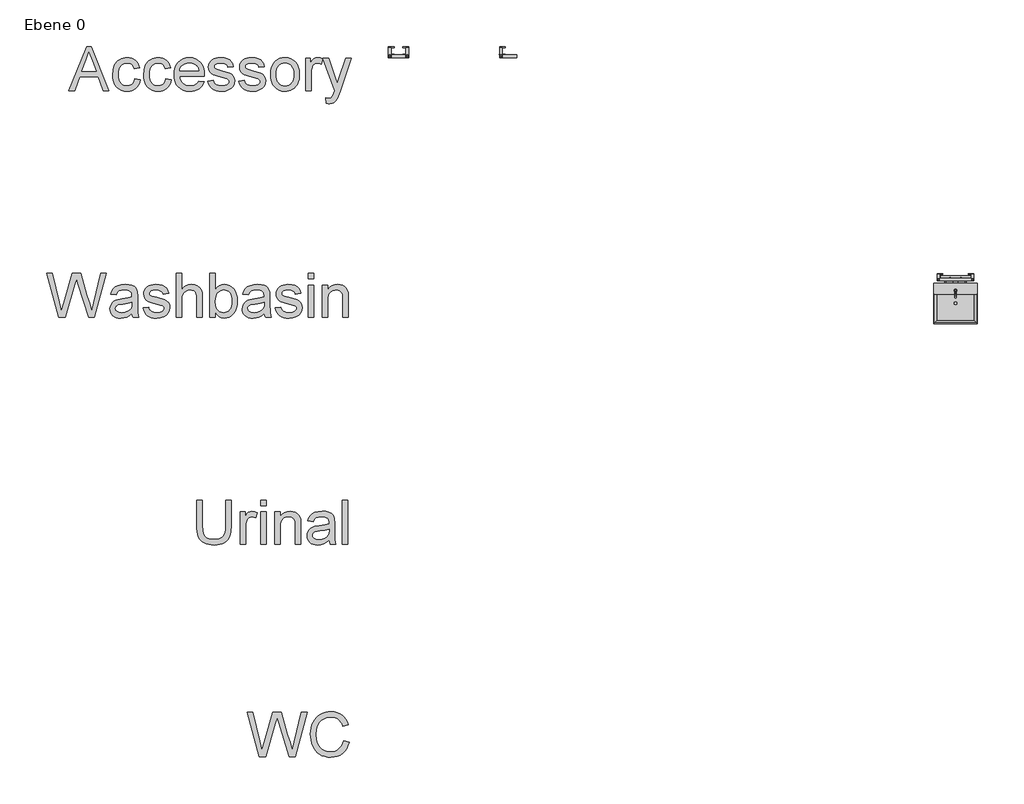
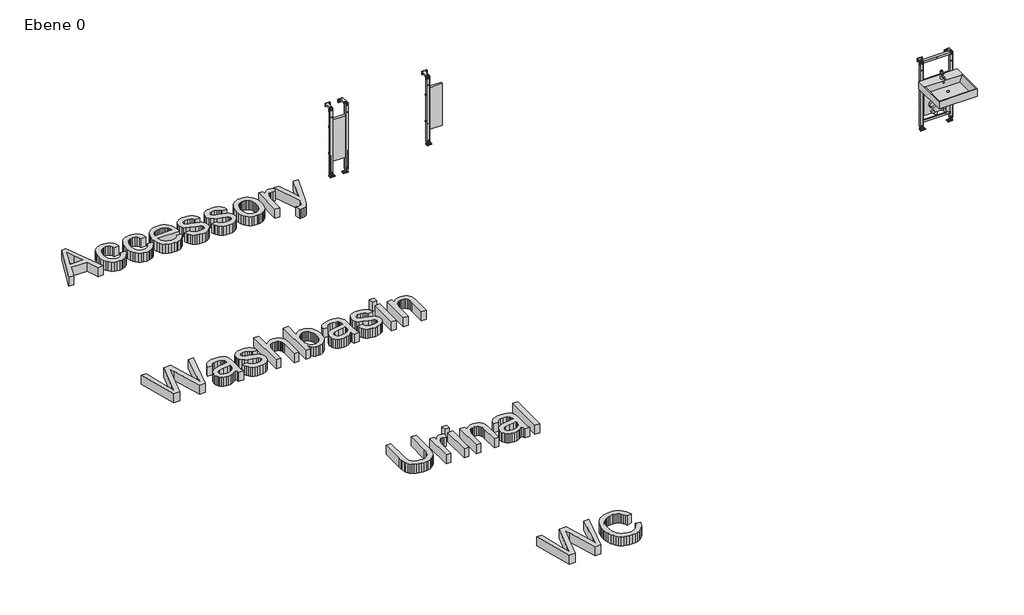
# One storey, incomplete: 4 proxies, 3 flow terminals.
"""IFC4 building model written with IfcOpenShell, lengths in millimetres."""

from ifc_helpers import new_model, si_unit, origin, origin_with_axes, place, context, project, spatial, polyline, outline, extrude, transform, mapped, element, save
from components import flow_terminal_50447908, flow_terminal_0b231f3f, flow_terminal_da6a648a, flow_terminal_fb088d42, flow_terminal_e19c1c6e

model = new_model("IFC4")

# Units and contexts
model_context = context("Model", 3, world=origin())
ifc_project = project(units=[si_unit("LENGTHUNIT", "METRE", prefix="MILLI")], contexts=[model_context])

# Site, building, storey
site = spatial("IfcSite", under=ifc_project)
building = spatial("IfcBuilding", under=site)
storey = spatial("IfcBuildingStorey", under=building, Name="Ebene 0", Elevation=0.0)

# Proxies
placement = place(None, origin())
element("IfcBuildingElementProxy", 1, Name="600mm Arial", ObjectType="600mm Arial", at=placement, inside=storey, context=model_context, shape_type="SweptSolid", body=[
    extrude(outline(polyline([(-1767.1327442, 2000.0), (-1931.5024196, 2602.7378609), (-1853.8057423, 2602.7378609), (-1758.4507291, 2206.6025285), (-1729.0201695, 2084.3185533), (-1697.5294707, 2192.4758599), (-1578.0413987, 2602.7378609), (-1466.0581193, 2602.7378609), (-1379.2379685, 2305.342056), (-1342.0450988, 2194.9774574), (-1314.6378901, 2084.3185533), (-1286.0902473, 2203.0708613), (-1189.9994702, 2602.7378609), (-1112.15564, 2602.7378609), (-1276.3781626, 2000.0), (-1357.017896, 2000.0), (-1501.6690965, 2465.0028419), (-1521.8290298, 2529.8972259), (-1544.4905607, 2451.7590901), (-1676.192315, 2000.0), (-1767.1327442, 2000.0)])), origin_with_axes(), (0.0, 0.0, 1.0), 150.0),
    extrude(outline(polyline([(-613.0133489, 2214.254474), (-537.6711163, 2194.8303046), (-552.5795342, 2147.975934), (-572.4359649, 2107.0352665), (-597.2404084, 2072.008302), (-626.9928647, 2042.8950406), (-661.0219493, 2020.008182), (-698.6562774, 2003.6604259), (-739.8958491, 1993.8517722), (-784.7406643, 1990.5822209), (-830.6845269, 1993.0562273), (-872.1310322, 2000.4782466), (-909.0801801, 2012.8482787), (-941.5319706, 2030.1663236), (-969.9324606, 2052.174864), (-994.7277071, 2078.6163824), (-1015.91771, 2109.4908788), (-1033.5024694, 2144.7983533), (-1047.3118398, 2183.0120956), (-1057.1756758, 2222.6053953), (-1063.0939774, 2263.5782525), (-1065.0667446, 2305.9306672), (-1062.83646, 2351.3732906), (-1056.1456062, 2393.8176758), (-1044.9941832, 2433.2638228), (-1029.3821911, 2469.7117314), (-1009.6591176, 2502.5589951), (-986.1744507, 2531.2032069), (-958.9281905, 2555.644367), (-927.9203368, 2575.8824752), (-894.2039519, 2591.7519848), (-858.8320981, 2603.0873488), (-821.8047753, 2609.8885672), (-783.1219835, 2612.15564), (-740.0292063, 2609.2217811), (-700.5140815, 2600.4202043), (-664.5766091, 2585.7509098), (-632.2167891, 2565.2138974), (-603.9680504, 2539.3517931), (-580.3638218, 2508.7072229), (-561.4041035, 2473.2801868), (-547.0888954, 2433.0706847), (-622.431128, 2415.1180434), (-634.2953223, 2444.7463395), (-648.5507497, 2470.0612193), (-665.1974099, 2491.0626827), (-684.2353032, 2507.7507297), (-705.774794, 2520.4656512), (-729.926247, 2529.547738), (-756.6896621, 2534.99699), (-786.0650394, 2536.8134074), (-819.8641978, 2534.7992534), (-850.7754824, 2528.7567917), (-878.7988934, 2518.686022), (-903.9344307, 2504.5869446), (-925.8647961, 2487.0941557), (-944.2726915, 2466.8422519), (-959.1581167, 2443.8312331), (-970.5210718, 2418.0610993), (-984.9236519, 2362.9155882), (-989.724512, 2306.07782), (-984.0407352, 2236.4745465), (-976.9360141, 2205.2045769), (-966.9894047, 2176.2890521), (-954.0399584, 2150.3027877), (-937.9267271, 2127.8205992), (-918.6497105, 2108.8424868), (-896.2089088, 2093.3684504), (-871.6941724, 2081.3617018), (-846.1953516, 2072.7854527), (-819.7124464, 2067.6397033), (-792.245457, 2065.9244535), (-759.4901638, 2068.2605042), (-729.3560299, 2075.2686562), (-701.8430552, 2086.9489096), (-676.9512397, 2103.3012642), (-655.2691946, 2124.2521439), (-637.3855311, 2149.727972), (-623.3002492, 2179.7287487), (-613.0133489, 2214.254474)])), origin_with_axes(), (0.0, 0.0, 1.0), 150.0),
])
element("IfcBuildingElementProxy", 2, Name="600mm Arial", ObjectType="600mm Arial", at=placement, inside=storey, context=model_context, shape_type="SweptSolid", body=[
    extrude(outline(polyline([(-2223.453571, 5502.7378609), (-2148.1113384, 5502.7378609), (-2148.1113384, 5155.0157991), (-2153.2248981, 5073.5851194), (-2159.6168478, 5039.8917272), (-2168.5655773, 5010.8796333), (-2180.8436389, 4985.4497904), (-2197.2235847, 4962.503151), (-2217.7054148, 4942.039715), (-2242.2891292, 4924.0594825), (-2271.0023189, 4909.4131806), (-2303.8725751, 4898.9515363), (-2340.899898, 4892.6745498), (-2382.0842873, 4890.5822209), (-2422.2524027, 4892.4032368), (-2458.5853482, 4897.8662844), (-2491.083124, 4906.9713638), (-2519.7457299, 4919.7184749), (-2544.5777646, 4935.9190783), (-2565.5838265, 4955.3846344), (-2582.7639157, 4978.1151432), (-2596.1180321, 5004.1106046), (-2606.1290209, 5034.2631327), (-2613.2797272, 5069.4648411), (-2617.570151, 5109.7157299), (-2619.0002922, 5155.0157991), (-2619.0002922, 5502.7378609), (-2543.6580596, 5502.7378609), (-2543.6580596, 5157.6645494), (-2539.9424515, 5089.9558682), (-2528.795627, 5042.8117905), (-2520.0308385, 5025.4339648), (-2508.5989055, 5010.1622635), (-2494.499828, 4996.9966866), (-2477.7336061, 4985.9372341), (-2437.4873158, 4970.9276487), (-2389.1476216, 4965.9244535), (-2347.6229414, 4968.39846), (-2312.517802, 4975.8204792), (-2283.8322035, 4988.1905113), (-2261.5661457, 5005.5085562), (-2244.8918943, 5029.8623443), (-2232.9817147, 5063.3396059), (-2225.8356069, 5105.9403409), (-2223.453571, 5157.6645494), (-2223.453571, 5502.7378609)])), origin_with_axes(), (0.0, 0.0, 1.0), 150.0),
    extrude(outline(polyline([(-2025.6802104, 4900.0), (-2025.6802104, 5342.6356166), (-1959.7557569, 5342.6356166), (-1959.7557569, 5277.1526215), (-1935.4019688, 5315.1180434), (-1912.9611671, 5337.4852687), (-1890.446789, 5348.4113639), (-1865.8722717, 5352.0533957), (-1828.3483082, 5346.2408601), (-1790.2357335, 5328.8032536), (-1815.398862, 5261.2601193), (-1841.8863656, 5272.8484021), (-1868.3738693, 5276.7111631), (-1890.8698533, 5272.9955549), (-1910.9746043, 5261.8487305), (-1927.2165944, 5244.1168183), (-1938.1242955, 5220.645947), (-1947.2845572, 5178.5602467), (-1950.3379778, 5132.6485737), (-1950.3379778, 4900.0), (-2025.6802104, 4900.0)])), origin_with_axes(), (0.0, 0.0, 1.0), 150.0),
    extrude(outline(polyline([(-1743.1468381, 5427.3956283), (-1743.1468381, 5502.7378609), (-1667.8046055, 5502.7378609), (-1667.8046055, 5427.3956283), (-1743.1468381, 5427.3956283)])), origin_with_axes(), (0.0, 0.0, 1.0), 150.0),
    extrude(outline(polyline([(-1743.1468381, 4900.0), (-1743.1468381, 5342.6356166), (-1667.8046055, 5342.6356166), (-1667.8046055, 4900.0), (-1743.1468381, 4900.0)])), origin_with_axes(), (0.0, 0.0, 1.0), 150.0),
    extrude(outline(polyline([(-1554.7912566, 4900.0), (-1554.7912566, 5342.6356166), (-1479.449024, 5342.6356166), (-1479.449024, 5280.8314414), (-1453.27422, 5311.9910464), (-1421.8387035, 5334.2479071), (-1385.1424745, 5347.6020235), (-1343.1855329, 5352.0533957), (-1306.0478455, 5348.4665462), (-1272.0371551, 5337.7059979), (-1243.6734532, 5321.1145199), (-1223.4767317, 5300.0348816), (-1209.7731274, 5274.5222652), (-1200.8887772, 5244.6318531), (-1196.9156517, 5171.791218), (-1196.9156517, 4900.0), (-1272.2578843, 4900.0), (-1272.2578843, 5161.637675), (-1274.428388, 5200.5963783), (-1280.9398994, 5228.2978925), (-1292.9512465, 5248.1451261), (-1311.6212578, 5263.5409876), (-1335.5519815, 5273.4186192), (-1363.3454663, 5276.7111631), (-1386.2231279, 5274.862556), (-1407.4729116, 5269.316735), (-1427.0948175, 5260.0736998), (-1445.0888456, 5247.1334506), (-1460.1214236, 5229.0244594), (-1470.8589794, 5204.2751982), (-1477.3015128, 5172.885667), (-1479.449024, 5134.8558657), (-1479.449024, 4900.0), (-1554.7912566, 4900.0)])), origin_with_axes(), (0.0, 0.0, 1.0), 150.0),
    extrude(outline(polyline([(-810.7867095, 4956.5066745), (-846.7839628, 4925.6413751), (-883.8480738, 4905.4446535), (-922.8251712, 4894.2978291), (-964.5613835, 4890.5822209), (-998.1076229, 4892.817104), (-1027.524387, 4899.5217534), (-1052.8116756, 4910.696169), (-1073.9694889, 4926.3403509), (-1090.67593, 4945.4610176), (-1102.6091022, 4967.0648877), (-1109.7690055, 4991.1519614), (-1112.15564, 5017.7222385), (-1108.5503964, 5048.9554198), (-1097.7346658, 5077.3191217), (-1081.0512173, 5101.5993334), (-1059.8428203, 5120.5820443), (-1034.9188151, 5134.9294421), (-1007.0885422, 5145.3037144), (-941.8998526, 5156.6344798), (-864.8653628, 5168.5538565), (-811.2281679, 5182.5333723), (-810.7867095, 5199.3087913), (-815.9738457, 5232.9332056), (-822.4577658, 5245.3860112), (-831.5352541, 5254.9325489), (-847.2254211, 5264.4606926), (-866.3368908, 5271.2665095), (-914.8237378, 5276.7111631), (-959.7053412, 5273.0875254), (-991.0488872, 5262.2166125), (-1012.4228311, 5242.1118614), (-1027.3956283, 5210.7867095), (-1102.7378609, 5220.2044886), (-1089.659656, 5261.4072721), (-1070.1435161, 5293.7808876), (-1042.3684255, 5318.5393459), (-1004.5133682, 5336.8966575), (-958.2154191, 5348.2642111), (-905.1116531, 5352.0533957), (-854.1783909, 5348.7056695), (-813.8033419, 5338.662491), (-783.3611068, 5323.5609351), (-762.2262862, 5305.0380767), (-748.2099821, 5282.1374225), (-739.1232969, 5253.9024794), (-735.4444769, 5187.9780258), (-735.4444769, 5094.2416935), (-731.6185042, 4963.3492796), (-725.9531214, 4930.9940581), (-716.6089188, 4900.0), (-791.9511514, 4900.0), (-804.0176808, 4926.1931981), (-810.7867095, 4956.5066745)]), holes=[polyline([(-810.7867095, 5107.1911397), (-861.4072721, 5094.6463636), (-932.3349207, 5084.0881504), (-997.1557283, 5071.8744681), (-1014.0231178, 5063.5235469), (-1026.5127115, 5052.0088404), (-1034.2382334, 5038.2132656), (-1036.8134074, 5023.0197392), (-1031.2032069, 5000.6157257), (-1014.3726057, 4982.2584141), (-986.6894855, 4970.0079437), (-948.5217285, 4965.9244535), (-908.0547091, 4970.431008), (-872.2965791, 4983.9506713), (-843.3074779, 5003.8714813), (-823.1475446, 5027.5814759), (-814.2080121, 5052.0088404), (-811.2281679, 5085.853984), (-810.7867095, 5107.1911397)])]), origin_with_axes(), (0.0, 0.0, 1.0), 150.0),
    extrude(outline(polyline([(-631.8489071, 4900.0), (-631.8489071, 5502.7378609), (-556.5066745, 5502.7378609), (-556.5066745, 4900.0), (-631.8489071, 4900.0)])), origin_with_axes(), (0.0, 0.0, 1.0), 150.0),
])
element("IfcBuildingElementProxy", 3, Name="600mm Arial", ObjectType="600mm Arial", at=placement, inside=storey, context=model_context, shape_type="SweptSolid", body=[
    extrude(outline(polyline([(-4507.7064555, 8000.0), (-4672.0761309, 8602.7378609), (-4594.3794535, 8602.7378609), (-4499.0244404, 8206.6025285), (-4469.5938808, 8084.3185533), (-4438.103182, 8192.4758599), (-4318.6151099, 8602.7378609), (-4206.6318306, 8602.7378609), (-4119.8116797, 8305.342056), (-4082.61881, 8194.9774574), (-4055.2116014, 8084.3185533), (-4026.6639586, 8203.0708613), (-3930.5731814, 8602.7378609), (-3852.7293512, 8602.7378609), (-4016.9518739, 8000.0), (-4097.5916072, 8000.0), (-4242.2428077, 8465.0028419), (-4262.4027411, 8529.8972259), (-4285.064272, 8451.7590901), (-4416.7660262, 8000.0), (-4507.7064555, 8000.0)])), origin_with_axes(), (0.0, 0.0, 1.0), 150.0),
    extrude(outline(polyline([(-3504.2715254, 8056.5066745), (-3540.2687786, 8025.6413751), (-3577.3328897, 8005.4446535), (-3616.309987, 7994.2978291), (-3658.0461994, 7990.5822209), (-3691.5924388, 7992.817104), (-3721.0092029, 7999.5217534), (-3746.2964915, 8010.696169), (-3767.4543048, 8026.3403509), (-3784.1607459, 8045.4610176), (-3796.0939181, 8067.0648877), (-3803.2538214, 8091.1519614), (-3805.6404559, 8117.7222385), (-3802.0352123, 8148.9554198), (-3791.2194816, 8177.3191217), (-3774.5360332, 8201.5993334), (-3753.3276361, 8220.5820443), (-3728.403631, 8234.9294421), (-3700.573358, 8245.3037144), (-3635.3846685, 8256.6344798), (-3558.3501787, 8268.5538565), (-3504.7129838, 8282.5333723), (-3504.2715254, 8299.3087913), (-3509.4586615, 8332.9332056), (-3515.9425817, 8345.3860112), (-3525.0200699, 8354.9325489), (-3540.710237, 8364.4606926), (-3559.8217067, 8371.2665095), (-3608.3085536, 8376.7111631), (-3653.1901571, 8373.0875254), (-3684.533703, 8362.2166125), (-3705.907647, 8342.1118614), (-3720.8804442, 8310.7867095), (-3796.2226768, 8320.2044886), (-3783.1444719, 8361.4072721), (-3763.628332, 8393.7808876), (-3735.8532414, 8418.5393459), (-3697.9981841, 8436.8966575), (-3651.700235, 8448.2642111), (-3598.596469, 8452.0533957), (-3547.6632067, 8448.7056695), (-3507.2881578, 8438.662491), (-3476.8459227, 8423.5609351), (-3455.711102, 8405.0380767), (-3441.694798, 8382.1374225), (-3432.6081128, 8353.9024794), (-3428.9292928, 8287.9780258), (-3428.9292928, 8194.2416935), (-3425.10332, 8063.3492796), (-3419.4379373, 8030.9940581), (-3410.0937346, 8000.0), (-3485.4359673, 8000.0), (-3497.5024967, 8026.1931981), (-3504.2715254, 8056.5066745)]), holes=[polyline([(-3504.2715254, 8207.1911397), (-3554.8920879, 8194.6463636), (-3625.8197366, 8184.0881504), (-3690.6405442, 8171.8744681), (-3707.5079336, 8163.5235469), (-3719.9975274, 8152.0088404), (-3727.7230493, 8138.2132656), (-3730.2982232, 8123.0197392), (-3724.6880228, 8100.6157257), (-3707.8574215, 8082.2584141), (-3680.1743014, 8070.0079437), (-3642.0065444, 8065.9244535), (-3601.5395249, 8070.431008), (-3565.781395, 8083.9506713), (-3536.7922938, 8103.8714813), (-3516.6323604, 8127.5814759), (-3507.692828, 8152.0088404), (-3504.7129838, 8185.853984), (-3504.2715254, 8207.1911397)])]), origin_with_axes(), (0.0, 0.0, 1.0), 150.0),
    extrude(outline(polyline([(-3353.5870602, 8131.8489071), (-3278.2448276, 8141.2666861), (-3273.6922879, 8124.086597), (-3266.3622391, 8109.0402234), (-3256.2546813, 8096.1275653), (-3243.3696144, 8085.3486229), (-3227.6702503, 8076.8505488), (-3209.1198007, 8070.7804959), (-3163.4656451, 8065.9244535), (-3118.3633125, 8070.3758257), (-3100.8337354, 8075.9400409), (-3086.6518845, 8083.7299421), (-3067.8899027, 8103.080535), (-3063.1994073, 8113.9146598), (-3061.6359088, 8125.5213368), (-3063.2086043, 8135.6932739), (-3067.9266909, 8144.7247769), (-3086.7990373, 8159.3664803), (-3115.0155863, 8168.9314122), (-3164.3485619, 8180.8507888), (-3233.1057068, 8200.7348107), (-3277.8033692, 8217.7125647), (-3306.5165589, 8236.2354232), (-3327.3202857, 8260.7547582), (-3339.9570323, 8289.7070712), (-3344.1692811, 8321.5288638), (-3340.7847668, 8350.7203001), (-3330.6312237, 8377.6676562), (-3314.6283569, 8401.3040744), (-3293.6958714, 8420.5626969), (-3272.8921445, 8432.6844086), (-3245.7976356, 8442.8563458), (-3214.4724837, 8449.7541332), (-3180.9768281, 8452.0533957), (-3131.9381581, 8448.3561816), (-3089.3006349, 8437.2645395), (-3055.0140329, 8419.8637211), (-3031.0281268, 8397.2389784), (-3015.1356246, 8367.7164483), (-3005.1292344, 8329.6222677), (-3080.471467, 8320.2044886), (-3089.9812165, 8343.9144832), (-3108.7983806, 8361.7751541), (-3137.1069001, 8372.9771608), (-3175.0907161, 8376.7111631), (-3218.3536388, 8373.1427077), (-3247.1955872, 8362.4373416), (-3263.4191832, 8346.9862979), (-3268.8270485, 8329.1808093), (-3266.5829683, 8317.5925264), (-3259.8507278, 8307.2550424), (-3248.3360214, 8298.0212043), (-3231.7445434, 8290.6267762), (-3166.8501594, 8274.5871212), (-3056.2648317, 8239.1232969), (-3027.0550013, 8222.1639369), (-3004.9085052, 8198.950583), (-2990.9473834, 8169.4096588), (-2986.2936762, 8133.4675879), (-2991.7567238, 8096.3115063), (-3008.1458667, 8061.3627168), (-3034.8357055, 8031.3619401), (-3071.2008407, 8009.0498971), (-3115.1259509, 7995.19914), (-3164.4957147, 7990.5822209), (-3205.0455076, 7992.807907), (-3240.4633467, 7999.4849652), (-3270.7492319, 8010.6133956), (-3295.9031633, 8026.1931981), (-3316.4493728, 8046.1507963), (-3332.9120921, 8070.4126139), (-3345.2913212, 8098.9786508), (-3353.5870602, 8131.8489071)])), origin_with_axes(), (0.0, 0.0, 1.0), 150.0),
    extrude(outline(polyline([(-2901.5336645, 8000.0), (-2901.5336645, 8602.7378609), (-2826.1914319, 8602.7378609), (-2826.1914319, 8381.125747), (-2798.5175088, 8412.1565933), (-2767.4406773, 8434.3214835), (-2732.9609373, 8447.6204176), (-2695.0782888, 8452.0533957), (-2649.571286, 8447.2157474), (-2610.4654299, 8432.7028027), (-2579.6737069, 8409.6549957), (-2559.1091034, 8379.2127606), (-2547.5208206, 8337.3845778), (-2543.6580596, 8280.1789275), (-2543.6580596, 8000.0), (-2619.0002922, 8000.0), (-2619.0002922, 8272.3798292), (-2620.4994113, 8297.8188692), (-2624.9967687, 8319.542301), (-2632.4923644, 8337.5501247), (-2642.9861983, 8351.8423402), (-2656.2299501, 8362.7224502), (-2671.9752995, 8370.4939573), (-2690.2222465, 8375.1568616), (-2710.970791, 8376.7111631), (-2742.8109777, 8372.5173083), (-2772.7013898, 8359.9357441), (-2797.4598481, 8340.1804809), (-2813.9041733, 8314.4655295), (-2823.1196172, 8280.2892921), (-2826.1914319, 8235.1501713), (-2826.1914319, 8000.0), (-2901.5336645, 8000.0)])), origin_with_axes(), (0.0, 0.0, 1.0), 150.0),
    extrude(outline(polyline([(-2364.7202572, 8000.0), (-2440.0624898, 8000.0), (-2440.0624898, 8602.7378609), (-2364.7202572, 8602.7378609), (-2364.7202572, 8379.2127606), (-2339.9434048, 8411.0805385), (-2311.965979, 8433.8432369), (-2280.78798, 8447.500856), (-2246.4094075, 8452.0533957), (-2207.597857, 8447.9515114), (-2170.9200221, 8435.6458587), (-2138.4728301, 8415.9089896), (-2112.3532085, 8389.5134565), (-2091.8805754, 8356.7167766), (-2076.3743493, 8317.7764674), (-2066.6070824, 8274.3112097), (-2063.3513267, 8227.9396842), (-2066.7220455, 8174.431248), (-2076.8342018, 8127.3607467), (-2093.6877957, 8086.7281804), (-2117.2828272, 8052.5335489), (-2145.6051423, 8025.4298429), (-2176.6405871, 8006.0700529), (-2210.3891617, 7994.4541789), (-2246.8508659, 7990.5822209), (-2282.3606755, 7995.576219), (-2313.8421772, 8010.5582133), (-2341.2953711, 8035.5282037), (-2364.7202572, 8070.4861903), (-2364.7202572, 8000.0)]), holes=[polyline([(-2364.7202572, 8224.4080171), (-2359.5699092, 8161.5737723), (-2353.1319743, 8137.7718072), (-2344.1188654, 8119.0466136), (-2325.8627214, 8095.8056686), (-2304.6451273, 8079.2049936), (-2280.4660832, 8069.2445885), (-2253.325589, 8065.9244535), (-2230.7928168, 8068.3708688), (-2209.8419372, 8075.7101146), (-2190.4729501, 8087.9421909), (-2172.6858557, 8105.0670978), (-2157.814226, 8127.03885), (-2147.1916334, 8153.8114622), (-2140.8180778, 8185.3849344), (-2138.6935593, 8221.7592667), (-2140.7307059, 8258.8233777), (-2146.8421455, 8290.7003526), (-2157.0278783, 8317.3901913), (-2171.2879041, 8338.892894), (-2188.4358036, 8355.4383867), (-2207.2851573, 8367.2565958), (-2227.8359653, 8374.3475212), (-2250.0882275, 8376.7111631), (-2272.6209997, 8374.2647478), (-2293.5718793, 8366.925502), (-2312.9408663, 8354.6934256), (-2330.7279608, 8337.5685188), (-2345.5995905, 8315.8174958), (-2356.2221831, 8289.7070712), (-2362.5957386, 8259.237245), (-2364.7202572, 8224.4080171)])]), origin_with_axes(), (0.0, 0.0, 1.0), 150.0),
    extrude(outline(polyline([(-1696.0579427, 8056.5066745), (-1732.0551959, 8025.6413751), (-1769.119307, 8005.4446535), (-1808.0964043, 7994.2978291), (-1849.8326167, 7990.5822209), (-1883.3788561, 7992.817104), (-1912.7956202, 7999.5217534), (-1938.0829088, 8010.696169), (-1959.2407221, 8026.3403509), (-1975.9471632, 8045.4610176), (-1987.8803354, 8067.0648877), (-1995.0402387, 8091.1519614), (-1997.4268732, 8117.7222385), (-1993.8216296, 8148.9554198), (-1983.005899, 8177.3191217), (-1966.3224505, 8201.5993334), (-1945.1140535, 8220.5820443), (-1920.1900483, 8234.9294421), (-1892.3597753, 8245.3037144), (-1827.1710858, 8256.6344798), (-1750.136596, 8268.5538565), (-1696.4994011, 8282.5333723), (-1696.0579427, 8299.3087913), (-1701.2450789, 8332.9332056), (-1707.728999, 8345.3860112), (-1716.8064872, 8354.9325489), (-1732.4966543, 8364.4606926), (-1751.608124, 8371.2665095), (-1800.094971, 8376.7111631), (-1844.9765744, 8373.0875254), (-1876.3201204, 8362.2166125), (-1897.6940643, 8342.1118614), (-1912.6668615, 8310.7867095), (-1988.0090941, 8320.2044886), (-1974.9308892, 8361.4072721), (-1955.4147493, 8393.7808876), (-1927.6396587, 8418.5393459), (-1889.7846014, 8436.8966575), (-1843.4866523, 8448.2642111), (-1790.3828863, 8452.0533957), (-1739.449624, 8448.7056695), (-1699.0745751, 8438.662491), (-1668.63234, 8423.5609351), (-1647.4975194, 8405.0380767), (-1633.4812153, 8382.1374225), (-1624.3945301, 8353.9024794), (-1620.7157101, 8287.9780258), (-1620.7157101, 8194.2416935), (-1616.8897374, 8063.3492796), (-1611.2243546, 8030.9940581), (-1601.880152, 8000.0), (-1677.2223846, 8000.0), (-1689.288914, 8026.1931981), (-1696.0579427, 8056.5066745)]), holes=[polyline([(-1696.0579427, 8207.1911397), (-1746.6785053, 8194.6463636), (-1817.6061539, 8184.0881504), (-1882.4269615, 8171.8744681), (-1899.294351, 8163.5235469), (-1911.7839447, 8152.0088404), (-1919.5094666, 8138.2132656), (-1922.0846406, 8123.0197392), (-1916.4744401, 8100.6157257), (-1899.6438388, 8082.2584141), (-1871.9607187, 8070.0079437), (-1833.7929617, 8065.9244535), (-1793.3259422, 8070.431008), (-1757.5678123, 8083.9506713), (-1728.5787111, 8103.8714813), (-1708.4187778, 8127.5814759), (-1699.4792453, 8152.0088404), (-1696.4994011, 8185.853984), (-1696.0579427, 8207.1911397)])]), origin_with_axes(), (0.0, 0.0, 1.0), 150.0),
    extrude(outline(polyline([(-1545.3734775, 8131.8489071), (-1470.0312449, 8141.2666861), (-1465.4787052, 8124.086597), (-1458.1486564, 8109.0402234), (-1448.0410986, 8096.1275653), (-1435.1560317, 8085.3486229), (-1419.4566676, 8076.8505488), (-1400.906218, 8070.7804959), (-1355.2520624, 8065.9244535), (-1310.1497298, 8070.3758257), (-1292.6201527, 8075.9400409), (-1278.4383018, 8083.7299421), (-1259.67632, 8103.080535), (-1254.9858246, 8113.9146598), (-1253.4223261, 8125.5213368), (-1254.9950217, 8135.6932739), (-1259.7131082, 8144.7247769), (-1278.5854546, 8159.3664803), (-1306.8020036, 8168.9314122), (-1356.1349792, 8180.8507888), (-1424.8921241, 8200.7348107), (-1469.5897865, 8217.7125647), (-1498.3029762, 8236.2354232), (-1519.106703, 8260.7547582), (-1531.7434496, 8289.7070712), (-1535.9556984, 8321.5288638), (-1532.5711841, 8350.7203001), (-1522.417641, 8377.6676562), (-1506.4147742, 8401.3040744), (-1485.4822887, 8420.5626969), (-1464.6785619, 8432.6844086), (-1437.5840529, 8442.8563458), (-1406.258901, 8449.7541332), (-1372.7632454, 8452.0533957), (-1323.7245754, 8448.3561816), (-1281.0870522, 8437.2645395), (-1246.8004502, 8419.8637211), (-1222.8145441, 8397.2389784), (-1206.9220419, 8367.7164483), (-1196.9156517, 8329.6222677), (-1272.2578843, 8320.2044886), (-1281.7676339, 8343.9144832), (-1300.5847979, 8361.7751541), (-1328.8933174, 8372.9771608), (-1366.8771334, 8376.7111631), (-1410.1400561, 8373.1427077), (-1438.9820045, 8362.4373416), (-1455.2056005, 8346.9862979), (-1460.6134658, 8329.1808093), (-1458.3693856, 8317.5925264), (-1451.6371451, 8307.2550424), (-1440.1224387, 8298.0212043), (-1423.5309607, 8290.6267762), (-1358.6365767, 8274.5871212), (-1248.051249, 8239.1232969), (-1218.8414186, 8222.1639369), (-1196.6949225, 8198.950583), (-1182.7338007, 8169.4096588), (-1178.0800935, 8133.4675879), (-1183.5431411, 8096.3115063), (-1199.932284, 8061.3627168), (-1226.6221228, 8031.3619401), (-1262.987258, 8009.0498971), (-1306.9123682, 7995.19914), (-1356.282132, 7990.5822209), (-1396.8319249, 7992.807907), (-1432.249764, 7999.4849652), (-1462.5356492, 8010.6133956), (-1487.6895807, 8026.1931981), (-1508.2357901, 8046.1507963), (-1524.6985094, 8070.4126139), (-1537.0777385, 8098.9786508), (-1545.3734775, 8131.8489071)])), origin_with_axes(), (0.0, 0.0, 1.0), 150.0),
    extrude(outline(polyline([(-1093.3200818, 8527.3956283), (-1093.3200818, 8602.7378609), (-1017.9778492, 8602.7378609), (-1017.9778492, 8527.3956283), (-1093.3200818, 8527.3956283)])), origin_with_axes(), (0.0, 0.0, 1.0), 150.0),
    extrude(outline(polyline([(-1093.3200818, 8000.0), (-1093.3200818, 8442.6356166), (-1017.9778492, 8442.6356166), (-1017.9778492, 8000.0), (-1093.3200818, 8000.0)])), origin_with_axes(), (0.0, 0.0, 1.0), 150.0),
    extrude(outline(polyline([(-904.9645003, 8000.0), (-904.9645003, 8442.6356166), (-829.6222677, 8442.6356166), (-829.6222677, 8380.8314414), (-803.4474637, 8411.9910464), (-772.0119472, 8434.2479071), (-735.3157182, 8447.6020235), (-693.3587767, 8452.0533957), (-656.2210893, 8448.4665462), (-622.2103988, 8437.7059979), (-593.846697, 8421.1145199), (-573.6499754, 8400.0348816), (-559.9463711, 8374.5222652), (-551.0620209, 8344.6318531), (-547.0888954, 8271.791218), (-547.0888954, 8000.0), (-622.431128, 8000.0), (-622.431128, 8261.637675), (-624.6016318, 8300.5963783), (-631.1131431, 8328.2978925), (-643.1244902, 8348.1451261), (-661.7945015, 8363.5409876), (-685.7252253, 8373.4186192), (-713.51871, 8376.7111631), (-736.3963716, 8374.862556), (-757.6461553, 8369.316735), (-777.2680612, 8360.0736998), (-795.2620893, 8347.1334506), (-810.2946674, 8329.0244594), (-821.0322231, 8304.2751982), (-827.4747565, 8272.885667), (-829.6222677, 8234.8558657), (-829.6222677, 8000.0), (-904.9645003, 8000.0)])), origin_with_axes(), (0.0, 0.0, 1.0), 150.0),
])
element("IfcBuildingElementProxy", 4, Name="600mm Arial", ObjectType="600mm Arial", at=placement, inside=storey, context=model_context, shape_type="SweptSolid", body=[
    extrude(outline(polyline([(-4365.4096997, 11100.0), (-4124.8148749, 11702.7378609), (-4060.6562549, 11702.7378609), (-3820.2085829, 11100.0), (-3899.8182466, 11100.0), (-3968.6857561, 11288.3555815), (-4217.0796793, 11288.3555815), (-4285.9471888, 11100.0), (-4365.4096997, 11100.0)]), holes=[polyline([(-4189.4149532, 11363.6978141), (-3996.2033294, 11363.6978141), (-4050.6498646, 11511.8806818), (-4092.8827177, 11627.3956283), (-4130.4066812, 11524.830128), (-4189.4149532, 11363.6978141)])]), origin_with_axes(), (0.0, 0.0, 1.0), 150.0),
    extrude(outline(polyline([(-3466.6004091, 11260.1022443), (-3391.2581765, 11250.6844652), (-3399.4527479, 11215.1332689), (-3412.2642384, 11183.6747598), (-3429.6926479, 11156.3089379), (-3451.7379765, 11133.0358032), (-3477.4713221, 11114.4623609), (-3505.9637826, 11101.1956165), (-3537.2153581, 11093.2355698), (-3571.2260485, 11090.5822209), (-3613.4818942, 11094.2840335), (-3651.3691412, 11105.3894712), (-3684.8877895, 11123.8985341), (-3714.0378391, 11149.8112221), (-3737.6328705, 11182.6400917), (-3754.4864644, 11221.8976991), (-3764.5986208, 11267.5840444), (-3767.9693396, 11319.6991275), (-3762.2119863, 11386.7456211), (-3755.0152948, 11416.9165433), (-3744.9399267, 11444.8525823), (-3731.916904, 11469.9927181), (-3715.877249, 11491.7759308), (-3696.8209617, 11510.2022202), (-3674.748042, 11525.2715864), (-3650.6563698, 11536.988628), (-3625.5438251, 11545.3579434), (-3599.4104079, 11550.3795326), (-3572.2561181, 11552.0533957), (-3538.8294403, 11549.7541332), (-3508.5941389, 11542.8563458), (-3481.5502137, 11531.3600334), (-3457.6976648, 11515.2651962), (-3437.4411625, 11494.9397159), (-3421.1853768, 11470.7514747), (-3408.9303078, 11442.7004726), (-3400.6759556, 11410.7867095), (-3476.0181882, 11401.3689304), (-3489.6850043, 11434.2391867), (-3510.9669777, 11457.8020285), (-3538.6868861, 11471.9838794), (-3571.6675069, 11476.7111631), (-3597.2674953, 11474.3843094), (-3620.356689, 11467.4037486), (-3640.9350881, 11455.7694805), (-3659.0026926, 11439.4815051), (-3673.7133739, 11418.1627435), (-3684.2210034, 11391.4361166), (-3690.525581, 11359.3016243), (-3692.6271069, 11321.7592667), (-3690.5715663, 11283.6512905), (-3684.4049444, 11251.1443177), (-3674.1272411, 11224.2383483), (-3659.7384566, 11202.9333823), (-3642.029537, 11186.7419759), (-3621.7914288, 11175.1766857), (-3599.0241318, 11168.2375116), (-3573.7276461, 11165.9244535), (-3534.7137605, 11171.7002009), (-3517.8417725, 11178.919885), (-3502.726421, 11189.0274428), (-3489.7907704, 11202.1332389), (-3479.4578848, 11218.3476378), (-3471.7277644, 11237.6706396), (-3466.6004091, 11260.1022443)])), origin_with_axes(), (0.0, 0.0, 1.0), 150.0),
    extrude(outline(polyline([(-3042.8003507, 11260.1022443), (-2967.458118, 11250.6844652), (-2975.6526895, 11215.1332689), (-2988.46418, 11183.6747598), (-3005.8925895, 11156.3089379), (-3027.9379181, 11133.0358032), (-3053.6712636, 11114.4623609), (-3082.1637241, 11101.1956165), (-3113.4152996, 11093.2355698), (-3147.4259901, 11090.5822209), (-3189.6818358, 11094.2840335), (-3227.5690827, 11105.3894712), (-3261.087731, 11123.8985341), (-3290.2377806, 11149.8112221), (-3313.8328121, 11182.6400917), (-3330.686406, 11221.8976991), (-3340.7985623, 11267.5840444), (-3344.1692811, 11319.6991275), (-3338.4119279, 11386.7456211), (-3331.2152364, 11416.9165433), (-3321.1398682, 11444.8525823), (-3308.1168456, 11469.9927181), (-3292.0771906, 11491.7759308), (-3273.0209032, 11510.2022202), (-3250.9479835, 11525.2715864), (-3226.8563114, 11536.988628), (-3201.7437667, 11545.3579434), (-3175.6103494, 11550.3795326), (-3148.4560597, 11552.0533957), (-3115.0293819, 11549.7541332), (-3084.7940804, 11542.8563458), (-3057.7501552, 11531.3600334), (-3033.8976064, 11515.2651962), (-3013.641104, 11494.9397159), (-2997.3853184, 11470.7514747), (-2985.1302494, 11442.7004726), (-2976.8758971, 11410.7867095), (-3052.2181297, 11401.3689304), (-3065.8849459, 11434.2391867), (-3087.1669193, 11457.8020285), (-3114.8868276, 11471.9838794), (-3147.8674485, 11476.7111631), (-3173.4674368, 11474.3843094), (-3196.5566305, 11467.4037486), (-3217.1350297, 11455.7694805), (-3235.2026341, 11439.4815051), (-3249.9133154, 11418.1627435), (-3260.4209449, 11391.4361166), (-3266.7255226, 11359.3016243), (-3268.8270485, 11321.7592667), (-3266.7715079, 11283.6512905), (-3260.6048859, 11251.1443177), (-3250.3271827, 11224.2383483), (-3235.9383981, 11202.9333823), (-3218.2294786, 11186.7419759), (-3197.9913703, 11175.1766857), (-3175.2240734, 11168.2375116), (-3149.9275877, 11165.9244535), (-3110.9137021, 11171.7002009), (-3094.0417141, 11178.919885), (-3078.9263626, 11189.0274428), (-3065.9907119, 11202.1332389), (-3055.6578264, 11218.3476378), (-3047.927706, 11237.6706396), (-3042.8003507, 11260.1022443)])), origin_with_axes(), (0.0, 0.0, 1.0), 150.0),
    extrude(outline(polyline([(-2591.6298718, 11231.8489071), (-2517.7591671, 11222.431128), (-2529.0853341, 11192.8442185), (-2544.3754295, 11166.7705821), (-2563.6294534, 11144.2102188), (-2586.8474058, 11125.1631285), (-2613.7901635, 11110.0339814), (-2644.218603, 11099.2274478), (-2678.1327244, 11092.7435276), (-2715.5325278, 11090.5822209), (-2762.2811323, 11094.3116246), (-2803.9345712, 11105.4998358), (-2840.4928445, 11124.1468545), (-2871.9559521, 11150.2526805), (-2897.2570363, 11183.0907471), (-2915.3292393, 11221.9344873), (-2926.1725611, 11266.783901), (-2929.7870017, 11317.6389883), (-2926.1357729, 11370.2185225), (-2915.1820865, 11416.5624568), (-2896.9259425, 11456.6707914), (-2871.3673409, 11490.5435261), (-2839.9870067, 11517.454094), (-2804.265665, 11536.6759283), (-2764.2033157, 11548.2090288), (-2719.7999589, 11552.0533957), (-2676.8267433, 11548.2182259), (-2637.9646091, 11536.7127165), (-2603.2135561, 11517.5368675), (-2572.5735844, 11490.6906789), (-2547.5622073, 11456.8915206), (-2529.6969379, 11416.8567624), (-2518.9777763, 11370.5864045), (-2515.4047224, 11318.0804467), (-2515.8461808, 11297.7733606), (-2854.4447691, 11297.7733606), (-2850.080769, 11267.7082046), (-2841.4033524, 11241.3770507), (-2828.4125194, 11218.7798992), (-2811.1082701, 11199.9167499), (-2790.4470975, 11185.0451202), (-2767.385495, 11174.4225276), (-2741.9234624, 11168.0489721), (-2714.0609998, 11165.9244535), (-2673.9618623, 11169.8607909), (-2640.1902951, 11181.6698029), (-2612.7462983, 11202.0872537), (-2591.6298718, 11231.8489071)]), holes=[polyline([(-2854.4447691, 11373.1155932), (-2590.746955, 11373.1155932), (-2600.9372863, 11412.9204251), (-2609.7020748, 11428.573804), (-2620.9132786, 11441.3944915), (-2641.459488, 11456.8455353), (-2664.8383888, 11467.8819952), (-2691.049981, 11474.5038711), (-2720.0942645, 11476.7111631), (-2746.5863667, 11474.949928), (-2770.8803739, 11469.6662229), (-2792.9762863, 11460.8600476), (-2812.8741037, 11448.5314022), (-2829.5713477, 11433.2505039), (-2842.06554, 11415.5875696), (-2850.3566805, 11395.5425994), (-2854.4447691, 11373.1155932)])]), origin_with_axes(), (0.0, 0.0, 1.0), 150.0),
    extrude(outline(polyline([(-2468.315827, 11231.8489071), (-2392.9735944, 11241.2666861), (-2388.4210547, 11224.086597), (-2381.0910059, 11209.0402234), (-2370.9834481, 11196.1275653), (-2358.0983812, 11185.3486229), (-2342.3990171, 11176.8505488), (-2323.8485675, 11170.7804959), (-2278.1944119, 11165.9244535), (-2233.0920793, 11170.3758257), (-2215.5625022, 11175.9400409), (-2201.3806513, 11183.7299421), (-2182.6186695, 11203.080535), (-2177.9281741, 11213.9146598), (-2176.3646756, 11225.5213368), (-2177.9373712, 11235.6932739), (-2182.6554577, 11244.7247769), (-2201.5278041, 11259.3664803), (-2229.7443531, 11268.9314122), (-2279.0773287, 11280.8507888), (-2347.8344736, 11300.7348107), (-2392.532136, 11317.7125647), (-2421.2453257, 11336.2354232), (-2442.0490525, 11360.7547582), (-2454.6857991, 11389.7070712), (-2458.8980479, 11421.5288638), (-2455.5135336, 11450.7203001), (-2445.3599905, 11477.6676562), (-2429.3571237, 11501.3040744), (-2408.4246382, 11520.5626969), (-2387.6209114, 11532.6844086), (-2360.5264024, 11542.8563458), (-2329.2012505, 11549.7541332), (-2295.7055949, 11552.0533957), (-2246.6669249, 11548.3561816), (-2204.0294017, 11537.2645395), (-2169.7427997, 11519.8637211), (-2145.7568936, 11497.2389784), (-2129.8643914, 11467.7164483), (-2119.8580012, 11429.6222677), (-2195.2002338, 11420.2044886), (-2204.7099833, 11443.9144832), (-2223.5271474, 11461.7751541), (-2251.8356669, 11472.9771608), (-2289.8194829, 11476.7111631), (-2333.0824056, 11473.1427077), (-2361.924354, 11462.4373416), (-2378.14795, 11446.9862979), (-2383.5558153, 11429.1808093), (-2381.3117351, 11417.5925264), (-2374.5794946, 11407.2550424), (-2363.0647882, 11398.0212043), (-2346.4733102, 11390.6267762), (-2281.5789262, 11374.5871212), (-2170.9935985, 11339.1232969), (-2141.7837681, 11322.1639369), (-2119.637272, 11298.950583), (-2105.6761502, 11269.4096588), (-2101.022443, 11233.4675879), (-2106.4854906, 11196.3115063), (-2122.8746335, 11161.3627168), (-2149.5644723, 11131.3619401), (-2185.9296075, 11109.0498971), (-2229.8547177, 11095.19914), (-2279.2244815, 11090.5822209), (-2319.7742744, 11092.807907), (-2355.1921135, 11099.4849652), (-2385.4779987, 11110.6133956), (-2410.6319302, 11126.1931981), (-2431.1781396, 11146.1507963), (-2447.6408589, 11170.4126139), (-2460.020088, 11198.9786508), (-2468.315827, 11231.8489071)])), origin_with_axes(), (0.0, 0.0, 1.0), 150.0),
    extrude(outline(polyline([(-2044.5157686, 11231.8489071), (-1969.1735359, 11241.2666861), (-1964.6209962, 11224.086597), (-1957.2909475, 11209.0402234), (-1947.1833897, 11196.1275653), (-1934.2983228, 11185.3486229), (-1918.5989587, 11176.8505488), (-1900.048509, 11170.7804959), (-1854.3943534, 11165.9244535), (-1809.2920208, 11170.3758257), (-1791.7624438, 11175.9400409), (-1777.5805928, 11183.7299421), (-1758.8186111, 11203.080535), (-1754.1281157, 11213.9146598), (-1752.5646172, 11225.5213368), (-1754.1373127, 11235.6932739), (-1758.8553993, 11244.7247769), (-1777.7277456, 11259.3664803), (-1805.9442947, 11268.9314122), (-1855.2772702, 11280.8507888), (-1924.0344151, 11300.7348107), (-1968.7320775, 11317.7125647), (-1997.4452673, 11336.2354232), (-2018.2489941, 11360.7547582), (-2030.8857406, 11389.7070712), (-2035.0979895, 11421.5288638), (-2031.7134751, 11450.7203001), (-2021.5599321, 11477.6676562), (-2005.5570653, 11501.3040744), (-1984.6245797, 11520.5626969), (-1963.8208529, 11532.6844086), (-1936.726344, 11542.8563458), (-1905.4011921, 11549.7541332), (-1871.9055364, 11552.0533957), (-1822.8668665, 11548.3561816), (-1780.2293432, 11537.2645395), (-1745.9427413, 11519.8637211), (-1721.9568352, 11497.2389784), (-1706.064333, 11467.7164483), (-1696.0579427, 11429.6222677), (-1771.4001753, 11420.2044886), (-1780.9099249, 11443.9144832), (-1799.727089, 11461.7751541), (-1828.0356085, 11472.9771608), (-1866.0194245, 11476.7111631), (-1909.2823471, 11473.1427077), (-1938.1242955, 11462.4373416), (-1954.3478915, 11446.9862979), (-1959.7557569, 11429.1808093), (-1957.5116767, 11417.5925264), (-1950.7794362, 11407.2550424), (-1939.2647297, 11398.0212043), (-1922.6732517, 11390.6267762), (-1857.7788678, 11374.5871212), (-1747.19354, 11339.1232969), (-1717.9837096, 11322.1639369), (-1695.8372135, 11298.950583), (-1681.8760918, 11269.4096588), (-1677.2223846, 11233.4675879), (-1682.6854322, 11196.3115063), (-1699.0745751, 11161.3627168), (-1725.7644138, 11131.3619401), (-1762.1295491, 11109.0498971), (-1806.0546593, 11095.19914), (-1855.424423, 11090.5822209), (-1895.9742159, 11092.807907), (-1931.392055, 11099.4849652), (-1961.6779403, 11110.6133956), (-1986.8318717, 11126.1931981), (-2007.3780811, 11146.1507963), (-2023.8408004, 11170.4126139), (-2036.2200296, 11198.9786508), (-2044.5157686, 11231.8489071)])), origin_with_axes(), (0.0, 0.0, 1.0), 150.0),
    extrude(outline(polyline([(-1611.297931, 11321.3178083), (-1607.2236379, 11378.6430202), (-1595.0007586, 11428.0403751), (-1574.6292932, 11469.509873), (-1546.1092415, 11503.0515139), (-1517.3960518, 11524.4898372), (-1485.7030179, 11539.8029252), (-1451.0301398, 11548.9907781), (-1413.3774176, 11552.0533957), (-1371.8113507, 11548.3239919), (-1334.2276064, 11537.1357808), (-1300.6261846, 11518.4887621), (-1271.0070855, 11492.3829361), (-1246.8326399, 11459.7012193), (-1229.5651787, 11421.3265287), (-1219.204702, 11377.2588642), (-1215.7512098, 11327.4982258), (-1217.2779201, 11287.1691621), (-1221.8580509, 11251.383441), (-1229.4916023, 11220.1410626), (-1240.1785743, 11193.4420268), (-1253.7856096, 11170.3804242), (-1270.179351, 11150.0503454), (-1289.3597985, 11132.4517905), (-1311.3269522, 11117.5847594), (-1335.2254863, 11105.7711488), (-1360.2000752, 11097.3328555), (-1386.250719, 11092.2698796), (-1413.3774176, 11090.5822209), (-1455.5504898, 11094.2978291), (-1493.4837221, 11105.4446535), (-1527.1771143, 11124.0226943), (-1556.6306665, 11150.0319513), (-1580.5475948, 11183.0309663), (-1597.6311149, 11222.5782808), (-1607.881227, 11268.6738948), (-1611.297931, 11321.3178083)]), holes=[polyline([(-1535.9556984, 11321.4649611), (-1533.7759976, 11284.9204834), (-1527.2368951, 11253.2780333), (-1516.338391, 11226.5376108), (-1501.0804853, 11204.6992158), (-1482.5208386, 11187.7352573), (-1461.7171118, 11175.6181441), (-1438.6693048, 11168.3478762), (-1413.3774176, 11165.9244535), (-1388.2142892, 11168.3616718), (-1365.2584527, 11175.6733264), (-1344.5099081, 11187.8594175), (-1325.9686556, 11204.919945), (-1310.7107498, 11226.9744706), (-1299.8122457, 11254.142556), (-1293.2731432, 11286.4242011), (-1291.0934424, 11323.8194059), (-1293.2869388, 11359.2050553), (-1299.867428, 11390.0197709), (-1310.83491, 11416.2635527), (-1326.1893848, 11437.9364008), (-1344.7996152, 11454.9003593), (-1365.5343642, 11467.0174725), (-1388.3936316, 11474.2877404), (-1413.3774176, 11476.7111631), (-1438.6693048, 11474.2969375), (-1461.7171118, 11467.0542607), (-1482.5208386, 11454.9831327), (-1501.0804853, 11438.0835536), (-1516.338391, 11416.309538), (-1527.2368951, 11389.6151007), (-1533.7759976, 11358.0002417), (-1535.9556984, 11321.4649611)])]), origin_with_axes(), (0.0, 0.0, 1.0), 150.0),
    extrude(outline(polyline([(-1130.9911981, 11100.0), (-1130.9911981, 11542.6356166), (-1065.0667446, 11542.6356166), (-1065.0667446, 11477.1526215), (-1040.7129565, 11515.1180434), (-1018.2721548, 11537.4852687), (-995.7577767, 11548.4113639), (-971.1832594, 11552.0533957), (-933.6592959, 11546.2408601), (-895.5467212, 11528.8032536), (-920.7098497, 11461.2601193), (-947.1973533, 11472.8484021), (-973.684857, 11476.7111631), (-996.180841, 11472.9955549), (-1016.285592, 11461.8487305), (-1032.5275821, 11444.1168183), (-1043.4352833, 11420.645947), (-1052.595545, 11378.5602467), (-1055.6489655, 11332.6485737), (-1055.6489655, 11100.0), (-1130.9911981, 11100.0)])), origin_with_axes(), (0.0, 0.0, 1.0), 150.0),
    extrude(outline(polyline([(-848.4578258, 10930.4799766), (-857.8756049, 11003.0263061), (-819.6158774, 10996.4044302), (-799.4927323, 10998.4829634), (-783.8577475, 11004.7185632), (-771.6808534, 11014.6697712), (-761.9319806, 11027.8951289), (-741.3305888, 11083.3717338), (-735.4444769, 11101.6186808), (-895.5467212, 11542.6356166), (-816.2313631, 11542.6356166), (-731.1770458, 11296.743291), (-701.5993334, 11198.4452219), (-672.0216209, 11285.4125256), (-584.7600117, 11542.6356166), (-506.0332647, 11542.6356166), (-660.1022443, 11089.4049985), (-700.1278054, 10991.1069294), (-720.6188325, 10959.7265952), (-743.8321864, 10937.9847693), (-770.7611485, 10925.2928405), (-802.399, 10921.0621975), (-824.2879787, 10923.4166423), (-848.4578258, 10930.4799766)])), origin_with_axes(), (0.0, 0.0, 1.0), 150.0),
])

# Flow terminals
flow_terminal_shape = flow_terminal_50447908(model_context)
element("IfcFlowTerminal", 5, ObjectType="nextVIT Stütz-Stützklappgriff-Element : nextVIT Stütz-Stützklappgriff-Element", at=placement, inside=storey, context=model_context, shape_type="MappedRepresentation", body=[
    mapped(flow_terminal_shape, transform((138.0, 11700.0, 0.0), x_axis=(1.0, 0.0, 0.0), y_axis=(0.0, 1.0, 0.0), z_axis=(0.0, 0.0, 1.0))),
])
flow_terminal_2_shape = flow_terminal_0b231f3f(model_context)
flow_terminal_3_shape = flow_terminal_da6a648a(model_context)
flow_terminal_4_shape = flow_terminal_fb088d42(model_context)
element("IfcFlowTerminal", 6, ObjectType="nextVIT Waschtisch-Element Wasserzählerstrecke WZ2 Rotguss : nextVIT Waschtisch-Element Wasserzählerstrecke WZ2 Rotguss", at=placement, inside=storey, context=model_context, shape_type="MappedRepresentation", body=[
    mapped(flow_terminal_2_shape, transform((7750.0, 8600.0, 0.0), x_axis=(1.0, 0.0, 0.0), y_axis=(0.0, 1.0, 0.0), z_axis=(0.0, 0.0, 1.0))),
    mapped(flow_terminal_3_shape, transform((7750.0, 8600.0, 0.0), x_axis=(1.0, 0.0, 0.0), y_axis=(0.0, 1.0, 0.0), z_axis=(0.0, 0.0, 1.0))),
    mapped(flow_terminal_4_shape, transform((7750.0, 8600.0, 0.0), x_axis=(1.0, 0.0, 0.0), y_axis=(0.0, 1.0, 0.0), z_axis=(0.0, 0.0, 1.0))),
])
flow_terminal_5_shape = flow_terminal_e19c1c6e(model_context)
element("IfcFlowTerminal", 7, ObjectType="nextVIT Stütz-Stützklappgriff-Element : nextVIT Stütz-Stützklappgriff-Element", at=placement, inside=storey, context=model_context, shape_type="MappedRepresentation", body=[
    mapped(flow_terminal_5_shape, transform((1638.0, 11700.0, 0.0), x_axis=(1.0, 0.0, 0.0), y_axis=(0.0, 1.0, 0.0), z_axis=(0.0, 0.0, 1.0))),
])

save(model, "model.ifc")
